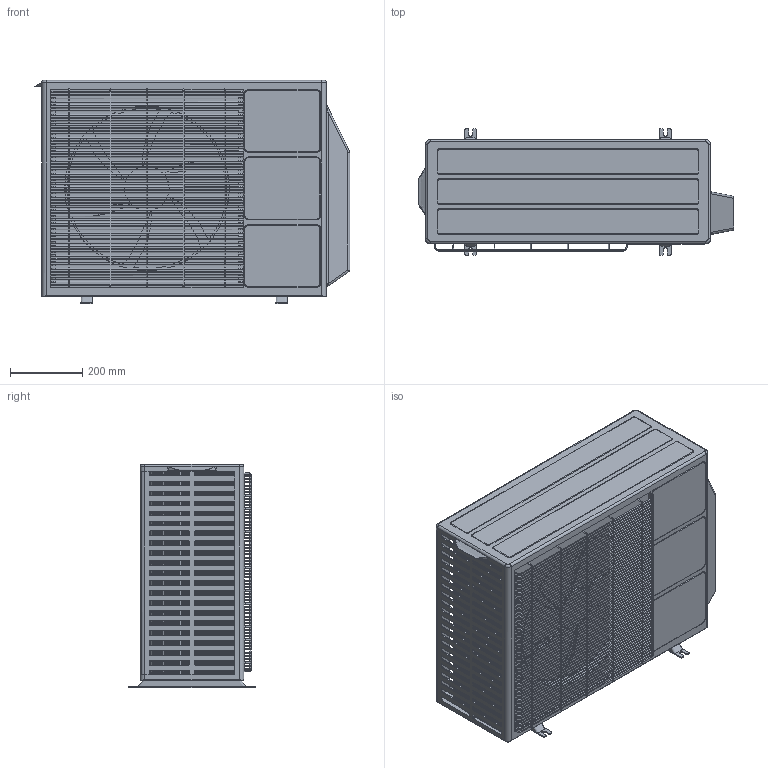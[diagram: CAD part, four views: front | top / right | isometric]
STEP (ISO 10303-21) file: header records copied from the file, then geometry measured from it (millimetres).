
FILE_DESCRIPTION(('FreeCAD Model'),'2;1');
FILE_NAME('Open CASCADE Shape Model','2026-04-01T14:18:50',(''),(''), 'Open CASCADE STEP processor 7.8','FreeCAD','Unknown');
FILE_SCHEMA(('AUTOMOTIVE_DESIGN { 1 0 10303 214 1 1 1 1 }'));
Products named in the file (1): HVAC Externo.ipt002-Final
Bounding box: 875.51 x 351.63 x 620.71 mm (x, y, z)
Volume: 115030648.8 mm3; surface area: 37375080 mm2
Topology: 346 solids, 346 shells, 3138 faces, 7770 edges, 5241 vertices
Faces by surface type: plane 2244, cylinder 700, torus 158, extrusion 14, bspline 14, sphere 8
Full cylindrical faces by diameter (mm): 3.175 x205, 23.055 x1, 30 x3, 101.6 x2, 123.282 x1, 457.2 x1
Entity records: 115671 total; most frequent: CARTESIAN_POINT 18914, DIRECTION 15663, ORIENTED_EDGE 15524, EDGE_CURVE 7762, VECTOR 5333, LINE 5319, VERTEX_POINT 5241, AXIS2_PLACEMENT_3D 5165
